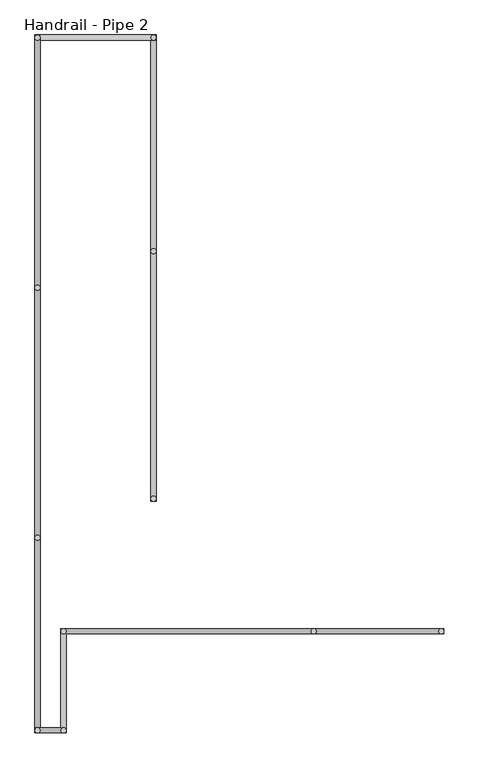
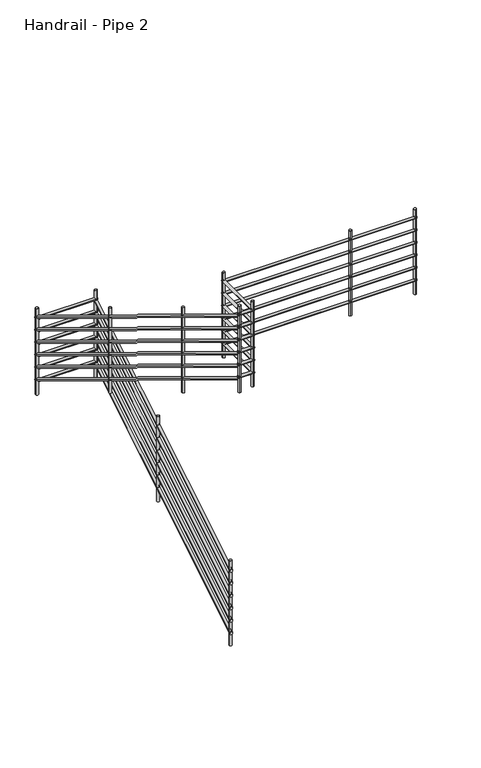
"""IFC4 building model written with IfcOpenShell, lengths in millimetres: railing geometry, Handrail - Pipe 2."""

from ifc_helpers import new_model, si_unit, point, frame, frame_2d, origin, place, context, project, spatial, circle_curve, ellipse_curve, trimmed, segment, composite_curve, outline, extrude, source, transform, mapped, element, save
from ifc_brep_helpers import plane_surface, cylinder_surface, advanced_brep


def handrail_pipe_2_8d0a3928(model_context):
    return source(origin(), model_context, "Body", "SolidModel", [
        advanced_brep(
        [(-34610.7022235, -2707.6103492, 946.6982196), (-34636.1022235, -2707.6103492, 946.6982196), (-34610.7022235, -459.7103492, 2316.8467911), (-34636.1022235, -459.7103492, 2316.8467911)],
        [
            (0, 1, ellipse_curve(frame((-34623.4022235, -2707.6103492, 946.6982196), z_axis=(0.0, -1.0, 0.0), x_axis=(0.0, 0.0, -1.0)), 14.8732089, 12.7)),
            (1, 0, ellipse_curve(frame((-34623.4022235, -2707.6103492, 946.6982196), z_axis=(0.0, -1.0, 0.0), x_axis=(0.0, 0.0, -1.0)), 14.8732089, 12.7)),
            (2, 3, ellipse_curve(frame((-34623.4022235, -459.7103492, 2316.8467911), z_axis=(0.0, 1.0, 0.0), x_axis=(0.0, 0.0, -1.0)), 14.8732089, 12.7)),
            (3, 2, ellipse_curve(frame((-34623.4022235, -459.7103492, 2316.8467911), z_axis=(0.0, 1.0, 0.0), x_axis=(0.0, 0.0, -1.0)), 14.8732089, 12.7)),
            (0, 2),
            (3, 1),
        ],
        [
            plane_surface(frame((-34623.4022235, -2707.6103492, 961.5714286), z_axis=(0.0, -1.0, 0.0), x_axis=(0.0, 0.0, 1.0))),
            plane_surface(frame((-34623.4022235, -459.7103492, 2331.72), z_axis=(0.0, 1.0, 0.0), x_axis=(0.0, 0.0, 1.0))),
            cylinder_surface(frame((-34623.4022235, -2701.0004713, 950.7270976), z_axis=(0.0, -0.8538843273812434, -0.5204628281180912), x_axis=(-1.0, 0.0, 0.0)), 12.7),
        ],
        [
            (0, [[1, 2]]),
            (1, [[3, 4]]),
            (2, [[-1, 5, -4, 6]]),
            (2, [[-2, -6, -3, -5]]),
        ],
    ),
        advanced_brep(
        [(-34610.7022235, -434.3103492, 2342.2428571), (-34610.7022235, -459.7103492, 2342.2428571), (-35176.278433, -434.3103492, 2342.2428571), (-35176.278433, -459.7103492, 2342.2428571)],
        [
            (0, 1, circle_curve(frame((-34610.7022235, -447.0103492, 2342.2428571), z_axis=(1.0, 0.0, 0.0), x_axis=(0.0, -1.0, 0.0)), 12.7)),
            (1, 0, circle_curve(frame((-34610.7022235, -447.0103492, 2342.2428571), z_axis=(1.0, 0.0, 0.0), x_axis=(0.0, -1.0, 0.0)), 12.7)),
            (2, 3, circle_curve(frame((-35176.278433, -447.0103492, 2342.2428571), z_axis=(-1.0, 0.0, 0.0), x_axis=(0.0, -1.0, 0.0)), 12.7)),
            (3, 2, circle_curve(frame((-35176.278433, -447.0103492, 2342.2428571), z_axis=(-1.0, 0.0, 0.0), x_axis=(0.0, -1.0, 0.0)), 12.7)),
            (0, 2),
            (3, 1),
        ],
        [
            plane_surface(frame((-34610.7022235, -447.0103492, 2354.9428571), z_axis=(1.0, 0.0, 0.0), x_axis=(0.0, -1.0, 0.0))),
            plane_surface(frame((-35176.278433, -447.0103492, 2354.9428571), z_axis=(-1.0, 0.0, 0.0), x_axis=(0.0, -1.0, 0.0))),
            cylinder_surface(frame((-34610.7022235, -447.0103492, 2342.2428571), z_axis=(1.0, 0.0, 0.0), x_axis=(0.0, -1.0, 0.0)), 12.7),
        ],
        [
            (0, [[1, 2]]),
            (1, [[3, 4]]),
            (2, [[-1, 5, -4, 6]]),
            (2, [[-2, -6, -3, -5]]),
        ],
    ),
        advanced_brep(
        [(-35201.678433, -434.3103492, 2347.8106006), (-35176.278433, -434.3103492, 2347.8106006), (-35201.678433, -3812.5103492, 4406.9039339), (-35176.278433, -3812.5103492, 4406.9039339)],
        [
            (0, 1, ellipse_curve(frame((-35188.978433, -434.3103492, 2347.8106006), z_axis=(0.0, 1.0, 0.0), x_axis=(0.0, 0.0, -1.0)), 14.8732089, 12.7)),
            (1, 0, ellipse_curve(frame((-35188.978433, -434.3103492, 2347.8106006), z_axis=(0.0, 1.0, 0.0), x_axis=(0.0, 0.0, -1.0)), 14.8732089, 12.7)),
            (2, 3, ellipse_curve(frame((-35188.978433, -3812.5103492, 4406.9039339), z_axis=(0.0, -1.0, 0.0), x_axis=(0.0, 0.0, -1.0)), 14.8732089, 12.7)),
            (3, 2, ellipse_curve(frame((-35188.978433, -3812.5103492, 4406.9039339), z_axis=(0.0, -1.0, 0.0), x_axis=(0.0, 0.0, -1.0)), 14.8732089, 12.7)),
            (0, 2),
            (3, 1),
        ],
        [
            plane_surface(frame((-35188.978433, -434.3103492, 2362.6838095), z_axis=(0.0, 1.0, 0.0), x_axis=(0.0, 0.0, -1.0))),
            plane_surface(frame((-35188.978433, -3812.5103492, 4421.7771429), z_axis=(0.0, -1.0, 0.0), x_axis=(0.0, 0.0, -1.0))),
            cylinder_surface(frame((-35188.978433, -440.9202271, 2351.8394786), z_axis=(0.0, 0.8538843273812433, -0.5204628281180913), x_axis=(1.0, 0.0, 0.0)), 12.7),
        ],
        [
            (0, [[1, 2]]),
            (1, [[3, 4]]),
            (2, [[-1, 5, -4, 6]]),
            (2, [[-2, -6, -3, -5]]),
        ],
    ),
        advanced_brep(
        [(-34610.7022235, -2707.6103492, 819.6982196), (-34636.1022235, -2707.6103492, 819.6982196), (-34610.7022235, -459.7103492, 2189.8467911), (-34636.1022235, -459.7103492, 2189.8467911)],
        [
            (0, 1, ellipse_curve(frame((-34623.4022235, -2707.6103492, 819.6982196), z_axis=(0.0, -1.0, 0.0), x_axis=(0.0, 0.0, -1.0)), 14.8732089, 12.7)),
            (1, 0, ellipse_curve(frame((-34623.4022235, -2707.6103492, 819.6982196), z_axis=(0.0, -1.0, 0.0), x_axis=(0.0, 0.0, -1.0)), 14.8732089, 12.7)),
            (2, 3, ellipse_curve(frame((-34623.4022235, -459.7103492, 2189.8467911), z_axis=(0.0, 1.0, 0.0), x_axis=(0.0, 0.0, -1.0)), 14.8732089, 12.7)),
            (3, 2, ellipse_curve(frame((-34623.4022235, -459.7103492, 2189.8467911), z_axis=(0.0, 1.0, 0.0), x_axis=(0.0, 0.0, -1.0)), 14.8732089, 12.7)),
            (0, 2),
            (3, 1),
        ],
        [
            plane_surface(frame((-34623.4022235, -2707.6103492, 834.5714286), z_axis=(0.0, -1.0, 0.0), x_axis=(0.0, 0.0, 1.0))),
            plane_surface(frame((-34623.4022235, -459.7103492, 2204.72), z_axis=(0.0, 1.0, 0.0), x_axis=(0.0, 0.0, 1.0))),
            cylinder_surface(frame((-34623.4022235, -2701.0004713, 823.7270976), z_axis=(0.0, -0.8538843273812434, -0.5204628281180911), x_axis=(-1.0, 0.0, 0.0)), 12.7),
        ],
        [
            (0, [[1, 2]]),
            (1, [[3, 4]]),
            (2, [[-1, 5, -4, 6]]),
            (2, [[-2, -6, -3, -5]]),
        ],
    ),
        advanced_brep(
        [(-34610.7022235, -434.3103492, 2215.2428571), (-34610.7022235, -459.7103492, 2215.2428571), (-35176.278433, -434.3103492, 2215.2428571), (-35176.278433, -459.7103492, 2215.2428571)],
        [
            (0, 1, circle_curve(frame((-34610.7022235, -447.0103492, 2215.2428571), z_axis=(1.0, 0.0, 0.0), x_axis=(0.0, -1.0, 0.0)), 12.7)),
            (1, 0, circle_curve(frame((-34610.7022235, -447.0103492, 2215.2428571), z_axis=(1.0, 0.0, 0.0), x_axis=(0.0, -1.0, 0.0)), 12.7)),
            (2, 3, circle_curve(frame((-35176.278433, -447.0103492, 2215.2428571), z_axis=(-1.0, 0.0, 0.0), x_axis=(0.0, -1.0, 0.0)), 12.7)),
            (3, 2, circle_curve(frame((-35176.278433, -447.0103492, 2215.2428571), z_axis=(-1.0, 0.0, 0.0), x_axis=(0.0, -1.0, 0.0)), 12.7)),
            (0, 2),
            (3, 1),
        ],
        [
            plane_surface(frame((-34610.7022235, -447.0103492, 2227.9428571), z_axis=(1.0, 0.0, 0.0), x_axis=(0.0, -1.0, 0.0))),
            plane_surface(frame((-35176.278433, -447.0103492, 2227.9428571), z_axis=(-1.0, 0.0, 0.0), x_axis=(0.0, -1.0, 0.0))),
            cylinder_surface(frame((-34610.7022235, -447.0103492, 2215.2428571), z_axis=(1.0, 0.0, 0.0), x_axis=(0.0, -1.0, 0.0)), 12.7),
        ],
        [
            (0, [[1, 2]]),
            (1, [[3, 4]]),
            (2, [[-1, 5, -4, 6]]),
            (2, [[-2, -6, -3, -5]]),
        ],
    ),
        advanced_brep(
        [(-35201.678433, -434.3103492, 2220.8106006), (-35176.278433, -434.3103492, 2220.8106006), (-35201.678433, -3812.5103492, 4279.9039339), (-35176.278433, -3812.5103492, 4279.9039339)],
        [
            (0, 1, ellipse_curve(frame((-35188.978433, -434.3103492, 2220.8106006), z_axis=(0.0, 1.0, 0.0), x_axis=(0.0, 0.0, -1.0)), 14.8732089, 12.7)),
            (1, 0, ellipse_curve(frame((-35188.978433, -434.3103492, 2220.8106006), z_axis=(0.0, 1.0, 0.0), x_axis=(0.0, 0.0, -1.0)), 14.8732089, 12.7)),
            (2, 3, ellipse_curve(frame((-35188.978433, -3812.5103492, 4279.9039339), z_axis=(0.0, -1.0, 0.0), x_axis=(0.0, 0.0, -1.0)), 14.8732089, 12.7)),
            (3, 2, ellipse_curve(frame((-35188.978433, -3812.5103492, 4279.9039339), z_axis=(0.0, -1.0, 0.0), x_axis=(0.0, 0.0, -1.0)), 14.8732089, 12.7)),
            (0, 2),
            (3, 1),
        ],
        [
            plane_surface(frame((-35188.978433, -434.3103492, 2235.6838095), z_axis=(0.0, 1.0, 0.0), x_axis=(0.0, 0.0, -1.0))),
            plane_surface(frame((-35188.978433, -3812.5103492, 4294.7771429), z_axis=(0.0, -1.0, 0.0), x_axis=(0.0, 0.0, -1.0))),
            cylinder_surface(frame((-35188.978433, -440.9202271, 2224.8394786), z_axis=(0.0, 0.8538843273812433, -0.5204628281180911), x_axis=(1.0, 0.0, 0.0)), 12.7),
        ],
        [
            (0, [[1, 2]]),
            (1, [[3, 4]]),
            (2, [[-1, 5, -4, 6]]),
            (2, [[-2, -6, -3, -5]]),
        ],
    ),
        advanced_brep(
        [(-34610.7022235, -2707.6103492, 692.6982196), (-34636.1022235, -2707.6103492, 692.6982196), (-34610.7022235, -459.7103492, 2062.8467911), (-34636.1022235, -459.7103492, 2062.8467911)],
        [
            (0, 1, ellipse_curve(frame((-34623.4022235, -2707.6103492, 692.6982196), z_axis=(0.0, -1.0, 0.0), x_axis=(0.0, 0.0, -1.0)), 14.8732089, 12.7)),
            (1, 0, ellipse_curve(frame((-34623.4022235, -2707.6103492, 692.6982196), z_axis=(0.0, -1.0, 0.0), x_axis=(0.0, 0.0, -1.0)), 14.8732089, 12.7)),
            (2, 3, ellipse_curve(frame((-34623.4022235, -459.7103492, 2062.8467911), z_axis=(0.0, 1.0, 0.0), x_axis=(0.0, 0.0, -1.0)), 14.8732089, 12.7)),
            (3, 2, ellipse_curve(frame((-34623.4022235, -459.7103492, 2062.8467911), z_axis=(0.0, 1.0, 0.0), x_axis=(0.0, 0.0, -1.0)), 14.8732089, 12.7)),
            (0, 2),
            (3, 1),
        ],
        [
            plane_surface(frame((-34623.4022235, -2707.6103492, 707.5714286), z_axis=(0.0, -1.0, 0.0), x_axis=(0.0, 0.0, 1.0))),
            plane_surface(frame((-34623.4022235, -459.7103492, 2077.72), z_axis=(0.0, 1.0, 0.0), x_axis=(0.0, 0.0, 1.0))),
            cylinder_surface(frame((-34623.4022235, -2701.0004713, 696.7270976), z_axis=(0.0, -0.8538843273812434, -0.5204628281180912), x_axis=(-1.0, 0.0, 0.0)), 12.7),
        ],
        [
            (0, [[1, 2]]),
            (1, [[3, 4]]),
            (2, [[-1, 5, -4, 6]]),
            (2, [[-2, -6, -3, -5]]),
        ],
    ),
        advanced_brep(
        [(-34610.7022235, -434.3103492, 2088.2428571), (-34610.7022235, -459.7103492, 2088.2428571), (-35176.278433, -434.3103492, 2088.2428571), (-35176.278433, -459.7103492, 2088.2428571)],
        [
            (0, 1, circle_curve(frame((-34610.7022235, -447.0103492, 2088.2428571), z_axis=(1.0, 0.0, 0.0), x_axis=(0.0, -1.0, 0.0)), 12.7)),
            (1, 0, circle_curve(frame((-34610.7022235, -447.0103492, 2088.2428571), z_axis=(1.0, 0.0, 0.0), x_axis=(0.0, -1.0, 0.0)), 12.7)),
            (2, 3, circle_curve(frame((-35176.278433, -447.0103492, 2088.2428571), z_axis=(-1.0, 0.0, 0.0), x_axis=(0.0, -1.0, 0.0)), 12.7)),
            (3, 2, circle_curve(frame((-35176.278433, -447.0103492, 2088.2428571), z_axis=(-1.0, 0.0, 0.0), x_axis=(0.0, -1.0, 0.0)), 12.7)),
            (0, 2),
            (3, 1),
        ],
        [
            plane_surface(frame((-34610.7022235, -447.0103492, 2100.9428571), z_axis=(1.0, 0.0, 0.0), x_axis=(0.0, -1.0, 0.0))),
            plane_surface(frame((-35176.278433, -447.0103492, 2100.9428571), z_axis=(-1.0, 0.0, 0.0), x_axis=(0.0, -1.0, 0.0))),
            cylinder_surface(frame((-34610.7022235, -447.0103492, 2088.2428571), z_axis=(1.0, 0.0, 0.0), x_axis=(0.0, -1.0, 0.0)), 12.7),
        ],
        [
            (0, [[1, 2]]),
            (1, [[3, 4]]),
            (2, [[-1, 5, -4, 6]]),
            (2, [[-2, -6, -3, -5]]),
        ],
    ),
        advanced_brep(
        [(-35201.678433, -434.3103492, 2093.8106006), (-35176.278433, -434.3103492, 2093.8106006), (-35201.678433, -3812.5103492, 4152.9039339), (-35176.278433, -3812.5103492, 4152.9039339)],
        [
            (0, 1, ellipse_curve(frame((-35188.978433, -434.3103492, 2093.8106006), z_axis=(0.0, 1.0, 0.0), x_axis=(0.0, 0.0, -1.0)), 14.8732089, 12.7)),
            (1, 0, ellipse_curve(frame((-35188.978433, -434.3103492, 2093.8106006), z_axis=(0.0, 1.0, 0.0), x_axis=(0.0, 0.0, -1.0)), 14.8732089, 12.7)),
            (2, 3, ellipse_curve(frame((-35188.978433, -3812.5103492, 4152.9039339), z_axis=(0.0, -1.0, 0.0), x_axis=(0.0, 0.0, -1.0)), 14.8732089, 12.7)),
            (3, 2, ellipse_curve(frame((-35188.978433, -3812.5103492, 4152.9039339), z_axis=(0.0, -1.0, 0.0), x_axis=(0.0, 0.0, -1.0)), 14.8732089, 12.7)),
            (0, 2),
            (3, 1),
        ],
        [
            plane_surface(frame((-35188.978433, -434.3103492, 2108.6838095), z_axis=(0.0, 1.0, 0.0), x_axis=(0.0, 0.0, -1.0))),
            plane_surface(frame((-35188.978433, -3812.5103492, 4167.7771429), z_axis=(0.0, -1.0, 0.0), x_axis=(0.0, 0.0, -1.0))),
            cylinder_surface(frame((-35188.978433, -440.9202271, 2097.8394786), z_axis=(0.0, 0.8538843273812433, -0.5204628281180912), x_axis=(1.0, 0.0, 0.0)), 12.7),
        ],
        [
            (0, [[1, 2]]),
            (1, [[3, 4]]),
            (2, [[-1, 5, -4, 6]]),
            (2, [[-2, -6, -3, -5]]),
        ],
    ),
        advanced_brep(
        [(-34610.7022235, -2707.6103492, 565.6982196), (-34636.1022235, -2707.6103492, 565.6982196), (-34610.7022235, -459.7103492, 1935.8467911), (-34636.1022235, -459.7103492, 1935.8467911)],
        [
            (0, 1, ellipse_curve(frame((-34623.4022235, -2707.6103492, 565.6982196), z_axis=(0.0, -1.0, 0.0), x_axis=(0.0, 0.0, -1.0)), 14.8732089, 12.7)),
            (1, 0, ellipse_curve(frame((-34623.4022235, -2707.6103492, 565.6982196), z_axis=(0.0, -1.0, 0.0), x_axis=(0.0, 0.0, -1.0)), 14.8732089, 12.7)),
            (2, 3, ellipse_curve(frame((-34623.4022235, -459.7103492, 1935.8467911), z_axis=(0.0, 1.0, 0.0), x_axis=(0.0, 0.0, -1.0)), 14.8732089, 12.7)),
            (3, 2, ellipse_curve(frame((-34623.4022235, -459.7103492, 1935.8467911), z_axis=(0.0, 1.0, 0.0), x_axis=(0.0, 0.0, -1.0)), 14.8732089, 12.7)),
            (0, 2),
            (3, 1),
        ],
        [
            plane_surface(frame((-34623.4022235, -2707.6103492, 580.5714286), z_axis=(0.0, -1.0, 0.0), x_axis=(0.0, 0.0, 1.0))),
            plane_surface(frame((-34623.4022235, -459.7103492, 1950.72), z_axis=(0.0, 1.0, 0.0), x_axis=(0.0, 0.0, 1.0))),
            cylinder_surface(frame((-34623.4022235, -2701.0004713, 569.7270976), z_axis=(0.0, -0.8538843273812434, -0.5204628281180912), x_axis=(-1.0, 0.0, 0.0)), 12.7),
        ],
        [
            (0, [[1, 2]]),
            (1, [[3, 4]]),
            (2, [[-1, 5, -4, 6]]),
            (2, [[-2, -6, -3, -5]]),
        ],
    ),
        advanced_brep(
        [(-34610.7022235, -434.3103492, 1961.2428571), (-34610.7022235, -459.7103492, 1961.2428571), (-35176.278433, -434.3103492, 1961.2428571), (-35176.278433, -459.7103492, 1961.2428571)],
        [
            (0, 1, circle_curve(frame((-34610.7022235, -447.0103492, 1961.2428571), z_axis=(1.0, 0.0, 0.0), x_axis=(0.0, -1.0, 0.0)), 12.7)),
            (1, 0, circle_curve(frame((-34610.7022235, -447.0103492, 1961.2428571), z_axis=(1.0, 0.0, 0.0), x_axis=(0.0, -1.0, 0.0)), 12.7)),
            (2, 3, circle_curve(frame((-35176.278433, -447.0103492, 1961.2428571), z_axis=(-1.0, 0.0, 0.0), x_axis=(0.0, -1.0, 0.0)), 12.7)),
            (3, 2, circle_curve(frame((-35176.278433, -447.0103492, 1961.2428571), z_axis=(-1.0, 0.0, 0.0), x_axis=(0.0, -1.0, 0.0)), 12.7)),
            (0, 2),
            (3, 1),
        ],
        [
            plane_surface(frame((-34610.7022235, -447.0103492, 1973.9428571), z_axis=(1.0, 0.0, 0.0), x_axis=(0.0, -1.0, 0.0))),
            plane_surface(frame((-35176.278433, -447.0103492, 1973.9428571), z_axis=(-1.0, 0.0, 0.0), x_axis=(0.0, -1.0, 0.0))),
            cylinder_surface(frame((-34610.7022235, -447.0103492, 1961.2428571), z_axis=(1.0, 0.0, 0.0), x_axis=(0.0, -1.0, 0.0)), 12.7),
        ],
        [
            (0, [[1, 2]]),
            (1, [[3, 4]]),
            (2, [[-1, 5, -4, 6]]),
            (2, [[-2, -6, -3, -5]]),
        ],
    ),
        advanced_brep(
        [(-35201.678433, -434.3103492, 1966.8106006), (-35176.278433, -434.3103492, 1966.8106006), (-35201.678433, -3812.5103492, 4025.9039339), (-35176.278433, -3812.5103492, 4025.9039339)],
        [
            (0, 1, ellipse_curve(frame((-35188.978433, -434.3103492, 1966.8106006), z_axis=(0.0, 1.0, 0.0), x_axis=(0.0, 0.0, -1.0)), 14.8732089, 12.7)),
            (1, 0, ellipse_curve(frame((-35188.978433, -434.3103492, 1966.8106006), z_axis=(0.0, 1.0, 0.0), x_axis=(0.0, 0.0, -1.0)), 14.8732089, 12.7)),
            (2, 3, ellipse_curve(frame((-35188.978433, -3812.5103492, 4025.9039339), z_axis=(0.0, -1.0, 0.0), x_axis=(0.0, 0.0, -1.0)), 14.8732089, 12.7)),
            (3, 2, ellipse_curve(frame((-35188.978433, -3812.5103492, 4025.9039339), z_axis=(0.0, -1.0, 0.0), x_axis=(0.0, 0.0, -1.0)), 14.8732089, 12.7)),
            (0, 2),
            (3, 1),
        ],
        [
            plane_surface(frame((-35188.978433, -434.3103492, 1981.6838095), z_axis=(0.0, 1.0, 0.0), x_axis=(0.0, 0.0, -1.0))),
            plane_surface(frame((-35188.978433, -3812.5103492, 4040.7771429), z_axis=(0.0, -1.0, 0.0), x_axis=(0.0, 0.0, -1.0))),
            cylinder_surface(frame((-35188.978433, -440.9202271, 1970.8394786), z_axis=(0.0, 0.8538843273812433, -0.5204628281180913), x_axis=(1.0, 0.0, 0.0)), 12.7),
        ],
        [
            (0, [[1, 2]]),
            (1, [[3, 4]]),
            (2, [[-1, 5, -4, 6]]),
            (2, [[-2, -6, -3, -5]]),
        ],
    ),
        advanced_brep(
        [(-34610.7022235, -2707.6103492, 438.6982196), (-34636.1022235, -2707.6103492, 438.6982196), (-34610.7022235, -459.7103492, 1808.8467911), (-34636.1022235, -459.7103492, 1808.8467911)],
        [
            (0, 1, ellipse_curve(frame((-34623.4022235, -2707.6103492, 438.6982196), z_axis=(0.0, -1.0, 0.0), x_axis=(0.0, 0.0, -1.0)), 14.8732089, 12.7)),
            (1, 0, ellipse_curve(frame((-34623.4022235, -2707.6103492, 438.6982196), z_axis=(0.0, -1.0, 0.0), x_axis=(0.0, 0.0, -1.0)), 14.8732089, 12.7)),
            (2, 3, ellipse_curve(frame((-34623.4022235, -459.7103492, 1808.8467911), z_axis=(0.0, 1.0, 0.0), x_axis=(0.0, 0.0, -1.0)), 14.8732089, 12.7)),
            (3, 2, ellipse_curve(frame((-34623.4022235, -459.7103492, 1808.8467911), z_axis=(0.0, 1.0, 0.0), x_axis=(0.0, 0.0, -1.0)), 14.8732089, 12.7)),
            (0, 2),
            (3, 1),
        ],
        [
            plane_surface(frame((-34623.4022235, -2707.6103492, 453.5714286), z_axis=(0.0, -1.0, 0.0), x_axis=(0.0, 0.0, 1.0))),
            plane_surface(frame((-34623.4022235, -459.7103492, 1823.72), z_axis=(0.0, 1.0, 0.0), x_axis=(0.0, 0.0, 1.0))),
            cylinder_surface(frame((-34623.4022235, -2701.0004713, 442.7270976), z_axis=(0.0, -0.8538843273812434, -0.5204628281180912), x_axis=(-1.0, 0.0, 0.0)), 12.7),
        ],
        [
            (0, [[1, 2]]),
            (1, [[3, 4]]),
            (2, [[-1, 5, -4, 6]]),
            (2, [[-2, -6, -3, -5]]),
        ],
    ),
        advanced_brep(
        [(-34610.7022235, -434.3103492, 1834.2428571), (-34610.7022235, -459.7103492, 1834.2428571), (-35176.278433, -434.3103492, 1834.2428571), (-35176.278433, -459.7103492, 1834.2428571)],
        [
            (0, 1, circle_curve(frame((-34610.7022235, -447.0103492, 1834.2428571), z_axis=(1.0, 0.0, 0.0), x_axis=(0.0, -1.0, 0.0)), 12.7)),
            (1, 0, circle_curve(frame((-34610.7022235, -447.0103492, 1834.2428571), z_axis=(1.0, 0.0, 0.0), x_axis=(0.0, -1.0, 0.0)), 12.7)),
            (2, 3, circle_curve(frame((-35176.278433, -447.0103492, 1834.2428571), z_axis=(-1.0, 0.0, 0.0), x_axis=(0.0, -1.0, 0.0)), 12.7)),
            (3, 2, circle_curve(frame((-35176.278433, -447.0103492, 1834.2428571), z_axis=(-1.0, 0.0, 0.0), x_axis=(0.0, -1.0, 0.0)), 12.7)),
            (0, 2),
            (3, 1),
        ],
        [
            plane_surface(frame((-34610.7022235, -447.0103492, 1846.9428571), z_axis=(1.0, 0.0, 0.0), x_axis=(0.0, -1.0, 0.0))),
            plane_surface(frame((-35176.278433, -447.0103492, 1846.9428571), z_axis=(-1.0, 0.0, 0.0), x_axis=(0.0, -1.0, 0.0))),
            cylinder_surface(frame((-34610.7022235, -447.0103492, 1834.2428571), z_axis=(1.0, 0.0, 0.0), x_axis=(0.0, -1.0, 0.0)), 12.7),
        ],
        [
            (0, [[1, 2]]),
            (1, [[3, 4]]),
            (2, [[-1, 5, -4, 6]]),
            (2, [[-2, -6, -3, -5]]),
        ],
    ),
        advanced_brep(
        [(-35201.678433, -434.3103492, 1839.8106006), (-35176.278433, -434.3103492, 1839.8106006), (-35201.678433, -3812.5103492, 3898.9039339), (-35176.278433, -3812.5103492, 3898.9039339)],
        [
            (0, 1, ellipse_curve(frame((-35188.978433, -434.3103492, 1839.8106006), z_axis=(0.0, 1.0, 0.0), x_axis=(0.0, 0.0, -1.0)), 14.8732089, 12.7)),
            (1, 0, ellipse_curve(frame((-35188.978433, -434.3103492, 1839.8106006), z_axis=(0.0, 1.0, 0.0), x_axis=(0.0, 0.0, -1.0)), 14.8732089, 12.7)),
            (2, 3, ellipse_curve(frame((-35188.978433, -3812.5103492, 3898.9039339), z_axis=(0.0, -1.0, 0.0), x_axis=(0.0, 0.0, -1.0)), 14.8732089, 12.7)),
            (3, 2, ellipse_curve(frame((-35188.978433, -3812.5103492, 3898.9039339), z_axis=(0.0, -1.0, 0.0), x_axis=(0.0, 0.0, -1.0)), 14.8732089, 12.7)),
            (0, 2),
            (3, 1),
        ],
        [
            plane_surface(frame((-35188.978433, -434.3103492, 1854.6838095), z_axis=(0.0, 1.0, 0.0), x_axis=(0.0, 0.0, -1.0))),
            plane_surface(frame((-35188.978433, -3812.5103492, 3913.7771429), z_axis=(0.0, -1.0, 0.0), x_axis=(0.0, 0.0, -1.0))),
            cylinder_surface(frame((-35188.978433, -440.9202271, 1843.8394786), z_axis=(0.0, 0.8538843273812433, -0.5204628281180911), x_axis=(1.0, 0.0, 0.0)), 12.7),
        ],
        [
            (0, [[1, 2]]),
            (1, [[3, 4]]),
            (2, [[-1, 5, -4, 6]]),
            (2, [[-2, -6, -3, -5]]),
        ],
    ),
        advanced_brep(
        [(-34610.7022235, -2707.6103492, 311.6982196), (-34636.1022235, -2707.6103492, 311.6982196), (-34610.7022235, -459.7103492, 1681.8467911), (-34636.1022235, -459.7103492, 1681.8467911)],
        [
            (0, 1, ellipse_curve(frame((-34623.4022235, -2707.6103492, 311.6982196), z_axis=(0.0, -1.0, 0.0), x_axis=(0.0, 0.0, -1.0)), 14.8732089, 12.7)),
            (1, 0, ellipse_curve(frame((-34623.4022235, -2707.6103492, 311.6982196), z_axis=(0.0, -1.0, 0.0), x_axis=(0.0, 0.0, -1.0)), 14.8732089, 12.7)),
            (2, 3, ellipse_curve(frame((-34623.4022235, -459.7103492, 1681.8467911), z_axis=(0.0, 1.0, 0.0), x_axis=(0.0, 0.0, -1.0)), 14.8732089, 12.7)),
            (3, 2, ellipse_curve(frame((-34623.4022235, -459.7103492, 1681.8467911), z_axis=(0.0, 1.0, 0.0), x_axis=(0.0, 0.0, -1.0)), 14.8732089, 12.7)),
            (0, 2),
            (3, 1),
        ],
        [
            plane_surface(frame((-34623.4022235, -2707.6103492, 326.5714286), z_axis=(0.0, -1.0, 0.0), x_axis=(0.0, 0.0, 1.0))),
            plane_surface(frame((-34623.4022235, -459.7103492, 1696.72), z_axis=(0.0, 1.0, 0.0), x_axis=(0.0, 0.0, 1.0))),
            cylinder_surface(frame((-34623.4022235, -2701.0004713, 315.7270976), z_axis=(0.0, -0.8538843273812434, -0.5204628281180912), x_axis=(-1.0, 0.0, 0.0)), 12.7),
        ],
        [
            (0, [[1, 2]]),
            (1, [[3, 4]]),
            (2, [[-1, 5, -4, 6]]),
            (2, [[-2, -6, -3, -5]]),
        ],
    ),
        advanced_brep(
        [(-34610.7022235, -434.3103492, 1707.2428571), (-34610.7022235, -459.7103492, 1707.2428571), (-35176.278433, -434.3103492, 1707.2428571), (-35176.278433, -459.7103492, 1707.2428571)],
        [
            (0, 1, circle_curve(frame((-34610.7022235, -447.0103492, 1707.2428571), z_axis=(1.0, 0.0, 0.0), x_axis=(0.0, -1.0, 0.0)), 12.7)),
            (1, 0, circle_curve(frame((-34610.7022235, -447.0103492, 1707.2428571), z_axis=(1.0, 0.0, 0.0), x_axis=(0.0, -1.0, 0.0)), 12.7)),
            (2, 3, circle_curve(frame((-35176.278433, -447.0103492, 1707.2428571), z_axis=(-1.0, 0.0, 0.0), x_axis=(0.0, -1.0, 0.0)), 12.7)),
            (3, 2, circle_curve(frame((-35176.278433, -447.0103492, 1707.2428571), z_axis=(-1.0, 0.0, 0.0), x_axis=(0.0, -1.0, 0.0)), 12.7)),
            (0, 2),
            (3, 1),
        ],
        [
            plane_surface(frame((-34610.7022235, -447.0103492, 1719.9428571), z_axis=(1.0, 0.0, 0.0), x_axis=(0.0, -1.0, 0.0))),
            plane_surface(frame((-35176.278433, -447.0103492, 1719.9428571), z_axis=(-1.0, 0.0, 0.0), x_axis=(0.0, -1.0, 0.0))),
            cylinder_surface(frame((-34610.7022235, -447.0103492, 1707.2428571), z_axis=(1.0, 0.0, 0.0), x_axis=(0.0, -1.0, 0.0)), 12.7),
        ],
        [
            (0, [[1, 2]]),
            (1, [[3, 4]]),
            (2, [[-1, 5, -4, 6]]),
            (2, [[-2, -6, -3, -5]]),
        ],
    ),
        advanced_brep(
        [(-35201.678433, -434.3103492, 1712.8106006), (-35176.278433, -434.3103492, 1712.8106006), (-35201.678433, -3812.5103492, 3771.9039339), (-35176.278433, -3812.5103492, 3771.9039339)],
        [
            (0, 1, ellipse_curve(frame((-35188.978433, -434.3103492, 1712.8106006), z_axis=(0.0, 1.0, 0.0), x_axis=(0.0, 0.0, -1.0)), 14.8732089, 12.7)),
            (1, 0, ellipse_curve(frame((-35188.978433, -434.3103492, 1712.8106006), z_axis=(0.0, 1.0, 0.0), x_axis=(0.0, 0.0, -1.0)), 14.8732089, 12.7)),
            (2, 3, ellipse_curve(frame((-35188.978433, -3812.5103492, 3771.9039339), z_axis=(0.0, -1.0, 0.0), x_axis=(0.0, 0.0, -1.0)), 14.8732089, 12.7)),
            (3, 2, ellipse_curve(frame((-35188.978433, -3812.5103492, 3771.9039339), z_axis=(0.0, -1.0, 0.0), x_axis=(0.0, 0.0, -1.0)), 14.8732089, 12.7)),
            (0, 2),
            (3, 1),
        ],
        [
            plane_surface(frame((-35188.978433, -434.3103492, 1727.6838095), z_axis=(0.0, 1.0, 0.0), x_axis=(0.0, 0.0, -1.0))),
            plane_surface(frame((-35188.978433, -3812.5103492, 3786.7771429), z_axis=(0.0, -1.0, 0.0), x_axis=(0.0, 0.0, -1.0))),
            cylinder_surface(frame((-35188.978433, -440.9202271, 1716.8394786), z_axis=(0.0, 0.8538843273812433, -0.5204628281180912), x_axis=(1.0, 0.0, 0.0)), 12.7),
        ],
        [
            (0, [[1, 2]]),
            (1, [[3, 4]]),
            (2, [[-1, 5, -4, 6]]),
            (2, [[-2, -6, -3, -5]]),
        ],
    ),
        advanced_brep(
        [(-35201.678433, -3837.9103492, 4432.3), (-35201.678433, -3812.5103492, 4432.3), (-35049.278433, -3837.9103492, 4432.3), (-35074.678433, -3812.5103492, 4432.3), (-35049.278433, -3355.3103492, 4432.3), (-35074.678433, -3329.9103492, 4432.3), (-33207.4142212, -3355.3103492, 4432.3), (-33207.4142212, -3329.9103492, 4432.3)],
        [
            (0, 1, circle_curve(frame((-35201.678433, -3825.2103492, 4432.3), z_axis=(-1.0, 0.0, 0.0), x_axis=(0.0, 1.0, 0.0)), 12.7)),
            (1, 0, circle_curve(frame((-35201.678433, -3825.2103492, 4432.3), z_axis=(-1.0, 0.0, 0.0), x_axis=(0.0, 1.0, 0.0)), 12.7)),
            (0, 2),
            (2, 3, ellipse_curve(frame((-35061.978433, -3825.2103492, 4432.3), z_axis=(-0.7071067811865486, -0.7071067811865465, 0.0), x_axis=(-0.7071067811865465, 0.7071067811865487, 0.0)), 17.9605122, 12.7)),
            (3, 1),
            (3, 2, ellipse_curve(frame((-35061.978433, -3825.2103492, 4432.3), z_axis=(-0.7071067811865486, -0.7071067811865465, 0.0), x_axis=(-0.7071067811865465, 0.7071067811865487, 0.0)), 17.9605122, 12.7)),
            (2, 4),
            (4, 5, ellipse_curve(frame((-35061.978433, -3342.6103492, 4432.3), z_axis=(-0.7071067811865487, -0.7071067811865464, 0.0), x_axis=(0.7071067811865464, -0.7071067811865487, 0.0)), 17.9605122, 12.7)),
            (5, 3),
            (5, 4, ellipse_curve(frame((-35061.978433, -3342.6103492, 4432.3), z_axis=(-0.7071067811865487, -0.7071067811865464, 0.0), x_axis=(0.7071067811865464, -0.7071067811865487, 0.0)), 17.9605122, 12.7)),
            (6, 7, circle_curve(frame((-33207.4142212, -3342.6103492, 4432.3), z_axis=(1.0, 0.0, 0.0), x_axis=(0.0, 1.0, 0.0)), 12.7)),
            (7, 6, circle_curve(frame((-33207.4142212, -3342.6103492, 4432.3), z_axis=(1.0, 0.0, 0.0), x_axis=(0.0, 1.0, 0.0)), 12.7)),
            (4, 6),
            (7, 5),
        ],
        [
            plane_surface(frame((-35201.678433, -3825.2103492, 4445.0), z_axis=(-1.0, 0.0, 0.0), x_axis=(0.0, 1.0, 0.0))),
            cylinder_surface(frame((-35201.678433, -3825.2103492, 4432.3), z_axis=(-1.0, 0.0, 0.0), x_axis=(0.0, 1.0, 0.0)), 12.7),
            cylinder_surface(frame((-35061.978433, -3825.2103492, 4432.3), z_axis=(0.0, -1.0, 0.0), x_axis=(-1.0, 0.0, 0.0)), 12.7),
            plane_surface(frame((-33207.4142212, -3342.6103492, 4445.0), z_axis=(1.0, 0.0, 0.0), x_axis=(0.0, 1.0, 0.0))),
            cylinder_surface(frame((-35061.978433, -3342.6103492, 4432.3), z_axis=(-1.0, 0.0, 0.0), x_axis=(0.0, 1.0, 0.0)), 12.7),
        ],
        [
            (0, [[1, 2]]),
            (1, [[-1, 3, 4, 5]]),
            (1, [[-2, -5, 6, -3]]),
            (2, [[-4, 7, 8, 9]]),
            (2, [[-6, -9, 10, -7]]),
            (3, [[11, 12]]),
            (4, [[-8, 13, -12, 14]]),
            (4, [[-10, -14, -11, -13]]),
        ],
    ),
        advanced_brep(
        [(-35201.678433, -3837.9103492, 4305.3), (-35201.678433, -3812.5103492, 4305.3), (-35049.278433, -3837.9103492, 4305.3), (-35074.678433, -3812.5103492, 4305.3), (-35049.278433, -3355.3103492, 4305.3), (-35074.678433, -3329.9103492, 4305.3), (-33207.4142212, -3355.3103492, 4305.3), (-33207.4142212, -3329.9103492, 4305.3)],
        [
            (0, 1, circle_curve(frame((-35201.678433, -3825.2103492, 4305.3), z_axis=(-1.0, 0.0, 0.0), x_axis=(0.0, 1.0, 0.0)), 12.7)),
            (1, 0, circle_curve(frame((-35201.678433, -3825.2103492, 4305.3), z_axis=(-1.0, 0.0, 0.0), x_axis=(0.0, 1.0, 0.0)), 12.7)),
            (0, 2),
            (2, 3, ellipse_curve(frame((-35061.978433, -3825.2103492, 4305.3), z_axis=(-0.7071067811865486, -0.7071067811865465, 0.0), x_axis=(-0.7071067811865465, 0.7071067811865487, 0.0)), 17.9605122, 12.7)),
            (3, 1),
            (3, 2, ellipse_curve(frame((-35061.978433, -3825.2103492, 4305.3), z_axis=(-0.7071067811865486, -0.7071067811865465, 0.0), x_axis=(-0.7071067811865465, 0.7071067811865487, 0.0)), 17.9605122, 12.7)),
            (2, 4),
            (4, 5, ellipse_curve(frame((-35061.978433, -3342.6103492, 4305.3), z_axis=(-0.7071067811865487, -0.7071067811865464, 0.0), x_axis=(0.7071067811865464, -0.7071067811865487, 0.0)), 17.9605122, 12.7)),
            (5, 3),
            (5, 4, ellipse_curve(frame((-35061.978433, -3342.6103492, 4305.3), z_axis=(-0.7071067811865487, -0.7071067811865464, 0.0), x_axis=(0.7071067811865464, -0.7071067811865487, 0.0)), 17.9605122, 12.7)),
            (6, 7, circle_curve(frame((-33207.4142212, -3342.6103492, 4305.3), z_axis=(1.0, 0.0, 0.0), x_axis=(0.0, 1.0, 0.0)), 12.7)),
            (7, 6, circle_curve(frame((-33207.4142212, -3342.6103492, 4305.3), z_axis=(1.0, 0.0, 0.0), x_axis=(0.0, 1.0, 0.0)), 12.7)),
            (4, 6),
            (7, 5),
        ],
        [
            plane_surface(frame((-35201.678433, -3825.2103492, 4318.0), z_axis=(-1.0, 0.0, 0.0), x_axis=(0.0, 1.0, 0.0))),
            cylinder_surface(frame((-35201.678433, -3825.2103492, 4305.3), z_axis=(-1.0, 0.0, 0.0), x_axis=(0.0, 1.0, 0.0)), 12.7),
            cylinder_surface(frame((-35061.978433, -3825.2103492, 4305.3), z_axis=(0.0, -1.0, 0.0), x_axis=(-1.0, 0.0, 0.0)), 12.7),
            plane_surface(frame((-33207.4142212, -3342.6103492, 4318.0), z_axis=(1.0, 0.0, 0.0), x_axis=(0.0, 1.0, 0.0))),
            cylinder_surface(frame((-35061.978433, -3342.6103492, 4305.3), z_axis=(-1.0, 0.0, 0.0), x_axis=(0.0, 1.0, 0.0)), 12.7),
        ],
        [
            (0, [[1, 2]]),
            (1, [[-1, 3, 4, 5]]),
            (1, [[-2, -5, 6, -3]]),
            (2, [[-4, 7, 8, 9]]),
            (2, [[-6, -9, 10, -7]]),
            (3, [[11, 12]]),
            (4, [[-8, 13, -12, 14]]),
            (4, [[-10, -14, -11, -13]]),
        ],
    ),
        advanced_brep(
        [(-35201.678433, -3837.9103492, 4178.3), (-35201.678433, -3812.5103492, 4178.3), (-35049.278433, -3837.9103492, 4178.3), (-35074.678433, -3812.5103492, 4178.3), (-35049.278433, -3355.3103492, 4178.3), (-35074.678433, -3329.9103492, 4178.3), (-33207.4142212, -3355.3103492, 4178.3), (-33207.4142212, -3329.9103492, 4178.3)],
        [
            (0, 1, circle_curve(frame((-35201.678433, -3825.2103492, 4178.3), z_axis=(-1.0, 0.0, 0.0), x_axis=(0.0, 1.0, 0.0)), 12.7)),
            (1, 0, circle_curve(frame((-35201.678433, -3825.2103492, 4178.3), z_axis=(-1.0, 0.0, 0.0), x_axis=(0.0, 1.0, 0.0)), 12.7)),
            (0, 2),
            (2, 3, ellipse_curve(frame((-35061.978433, -3825.2103492, 4178.3), z_axis=(-0.7071067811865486, -0.7071067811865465, 0.0), x_axis=(-0.7071067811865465, 0.7071067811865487, 0.0)), 17.9605122, 12.7)),
            (3, 1),
            (3, 2, ellipse_curve(frame((-35061.978433, -3825.2103492, 4178.3), z_axis=(-0.7071067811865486, -0.7071067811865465, 0.0), x_axis=(-0.7071067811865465, 0.7071067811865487, 0.0)), 17.9605122, 12.7)),
            (2, 4),
            (4, 5, ellipse_curve(frame((-35061.978433, -3342.6103492, 4178.3), z_axis=(-0.7071067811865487, -0.7071067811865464, 0.0), x_axis=(0.7071067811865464, -0.7071067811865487, 0.0)), 17.9605122, 12.7)),
            (5, 3),
            (5, 4, ellipse_curve(frame((-35061.978433, -3342.6103492, 4178.3), z_axis=(-0.7071067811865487, -0.7071067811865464, 0.0), x_axis=(0.7071067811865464, -0.7071067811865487, 0.0)), 17.9605122, 12.7)),
            (6, 7, circle_curve(frame((-33207.4142212, -3342.6103492, 4178.3), z_axis=(1.0, 0.0, 0.0), x_axis=(0.0, 1.0, 0.0)), 12.7)),
            (7, 6, circle_curve(frame((-33207.4142212, -3342.6103492, 4178.3), z_axis=(1.0, 0.0, 0.0), x_axis=(0.0, 1.0, 0.0)), 12.7)),
            (4, 6),
            (7, 5),
        ],
        [
            plane_surface(frame((-35201.678433, -3825.2103492, 4191.0), z_axis=(-1.0, 0.0, 0.0), x_axis=(0.0, 1.0, 0.0))),
            cylinder_surface(frame((-35201.678433, -3825.2103492, 4178.3), z_axis=(-1.0, 0.0, 0.0), x_axis=(0.0, 1.0, 0.0)), 12.7),
            cylinder_surface(frame((-35061.978433, -3825.2103492, 4178.3), z_axis=(0.0, -1.0, 0.0), x_axis=(-1.0, 0.0, 0.0)), 12.7),
            plane_surface(frame((-33207.4142212, -3342.6103492, 4191.0), z_axis=(1.0, 0.0, 0.0), x_axis=(0.0, 1.0, 0.0))),
            cylinder_surface(frame((-35061.978433, -3342.6103492, 4178.3), z_axis=(-1.0, 0.0, 0.0), x_axis=(0.0, 1.0, 0.0)), 12.7),
        ],
        [
            (0, [[1, 2]]),
            (1, [[-1, 3, 4, 5]]),
            (1, [[-2, -5, 6, -3]]),
            (2, [[-4, 7, 8, 9]]),
            (2, [[-6, -9, 10, -7]]),
            (3, [[11, 12]]),
            (4, [[-8, 13, -12, 14]]),
            (4, [[-10, -14, -11, -13]]),
        ],
    ),
        advanced_brep(
        [(-35201.678433, -3837.9103492, 4051.3), (-35201.678433, -3812.5103492, 4051.3), (-35049.278433, -3837.9103492, 4051.3), (-35074.678433, -3812.5103492, 4051.3), (-35049.278433, -3355.3103492, 4051.3), (-35074.678433, -3329.9103492, 4051.3), (-33207.4142212, -3355.3103492, 4051.3), (-33207.4142212, -3329.9103492, 4051.3)],
        [
            (0, 1, circle_curve(frame((-35201.678433, -3825.2103492, 4051.3), z_axis=(-1.0, 0.0, 0.0), x_axis=(0.0, 1.0, 0.0)), 12.7)),
            (1, 0, circle_curve(frame((-35201.678433, -3825.2103492, 4051.3), z_axis=(-1.0, 0.0, 0.0), x_axis=(0.0, 1.0, 0.0)), 12.7)),
            (0, 2),
            (2, 3, ellipse_curve(frame((-35061.978433, -3825.2103492, 4051.3), z_axis=(-0.7071067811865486, -0.7071067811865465, 0.0), x_axis=(-0.7071067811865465, 0.7071067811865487, 0.0)), 17.9605122, 12.7)),
            (3, 1),
            (3, 2, ellipse_curve(frame((-35061.978433, -3825.2103492, 4051.3), z_axis=(-0.7071067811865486, -0.7071067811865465, 0.0), x_axis=(-0.7071067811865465, 0.7071067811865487, 0.0)), 17.9605122, 12.7)),
            (2, 4),
            (4, 5, ellipse_curve(frame((-35061.978433, -3342.6103492, 4051.3), z_axis=(-0.7071067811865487, -0.7071067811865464, 0.0), x_axis=(0.7071067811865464, -0.7071067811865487, 0.0)), 17.9605122, 12.7)),
            (5, 3),
            (5, 4, ellipse_curve(frame((-35061.978433, -3342.6103492, 4051.3), z_axis=(-0.7071067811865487, -0.7071067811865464, 0.0), x_axis=(0.7071067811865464, -0.7071067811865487, 0.0)), 17.9605122, 12.7)),
            (6, 7, circle_curve(frame((-33207.4142212, -3342.6103492, 4051.3), z_axis=(1.0, 0.0, 0.0), x_axis=(0.0, 1.0, 0.0)), 12.7)),
            (7, 6, circle_curve(frame((-33207.4142212, -3342.6103492, 4051.3), z_axis=(1.0, 0.0, 0.0), x_axis=(0.0, 1.0, 0.0)), 12.7)),
            (4, 6),
            (7, 5),
        ],
        [
            plane_surface(frame((-35201.678433, -3825.2103492, 4064.0), z_axis=(-1.0, 0.0, 0.0), x_axis=(0.0, 1.0, 0.0))),
            cylinder_surface(frame((-35201.678433, -3825.2103492, 4051.3), z_axis=(-1.0, 0.0, 0.0), x_axis=(0.0, 1.0, 0.0)), 12.7),
            cylinder_surface(frame((-35061.978433, -3825.2103492, 4051.3), z_axis=(0.0, -1.0, 0.0), x_axis=(-1.0, 0.0, 0.0)), 12.7),
            plane_surface(frame((-33207.4142212, -3342.6103492, 4064.0), z_axis=(1.0, 0.0, 0.0), x_axis=(0.0, 1.0, 0.0))),
            cylinder_surface(frame((-35061.978433, -3342.6103492, 4051.3), z_axis=(-1.0, 0.0, 0.0), x_axis=(0.0, 1.0, 0.0)), 12.7),
        ],
        [
            (0, [[1, 2]]),
            (1, [[-1, 3, 4, 5]]),
            (1, [[-2, -5, 6, -3]]),
            (2, [[-4, 7, 8, 9]]),
            (2, [[-6, -9, 10, -7]]),
            (3, [[11, 12]]),
            (4, [[-8, 13, -12, 14]]),
            (4, [[-10, -14, -11, -13]]),
        ],
    ),
        advanced_brep(
        [(-35201.678433, -3837.9103492, 3924.3), (-35201.678433, -3812.5103492, 3924.3), (-35049.278433, -3837.9103492, 3924.3), (-35074.678433, -3812.5103492, 3924.3), (-35049.278433, -3355.3103492, 3924.3), (-35074.678433, -3329.9103492, 3924.3), (-33207.4142212, -3355.3103492, 3924.3), (-33207.4142212, -3329.9103492, 3924.3)],
        [
            (0, 1, circle_curve(frame((-35201.678433, -3825.2103492, 3924.3), z_axis=(-1.0, 0.0, 0.0), x_axis=(0.0, 1.0, 0.0)), 12.7)),
            (1, 0, circle_curve(frame((-35201.678433, -3825.2103492, 3924.3), z_axis=(-1.0, 0.0, 0.0), x_axis=(0.0, 1.0, 0.0)), 12.7)),
            (0, 2),
            (2, 3, ellipse_curve(frame((-35061.978433, -3825.2103492, 3924.3), z_axis=(-0.7071067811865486, -0.7071067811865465, 0.0), x_axis=(-0.7071067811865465, 0.7071067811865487, 0.0)), 17.9605122, 12.7)),
            (3, 1),
            (3, 2, ellipse_curve(frame((-35061.978433, -3825.2103492, 3924.3), z_axis=(-0.7071067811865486, -0.7071067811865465, 0.0), x_axis=(-0.7071067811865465, 0.7071067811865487, 0.0)), 17.9605122, 12.7)),
            (2, 4),
            (4, 5, ellipse_curve(frame((-35061.978433, -3342.6103492, 3924.3), z_axis=(-0.7071067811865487, -0.7071067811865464, 0.0), x_axis=(0.7071067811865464, -0.7071067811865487, 0.0)), 17.9605122, 12.7)),
            (5, 3),
            (5, 4, ellipse_curve(frame((-35061.978433, -3342.6103492, 3924.3), z_axis=(-0.7071067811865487, -0.7071067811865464, 0.0), x_axis=(0.7071067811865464, -0.7071067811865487, 0.0)), 17.9605122, 12.7)),
            (6, 7, circle_curve(frame((-33207.4142212, -3342.6103492, 3924.3), z_axis=(1.0, 0.0, 0.0), x_axis=(0.0, 1.0, 0.0)), 12.7)),
            (7, 6, circle_curve(frame((-33207.4142212, -3342.6103492, 3924.3), z_axis=(1.0, 0.0, 0.0), x_axis=(0.0, 1.0, 0.0)), 12.7)),
            (4, 6),
            (7, 5),
        ],
        [
            plane_surface(frame((-35201.678433, -3825.2103492, 3937.0), z_axis=(-1.0, 0.0, 0.0), x_axis=(0.0, 1.0, 0.0))),
            cylinder_surface(frame((-35201.678433, -3825.2103492, 3924.3), z_axis=(-1.0, 0.0, 0.0), x_axis=(0.0, 1.0, 0.0)), 12.7),
            cylinder_surface(frame((-35061.978433, -3825.2103492, 3924.3), z_axis=(0.0, -1.0, 0.0), x_axis=(-1.0, 0.0, 0.0)), 12.7),
            plane_surface(frame((-33207.4142212, -3342.6103492, 3937.0), z_axis=(1.0, 0.0, 0.0), x_axis=(0.0, 1.0, 0.0))),
            cylinder_surface(frame((-35061.978433, -3342.6103492, 3924.3), z_axis=(-1.0, 0.0, 0.0), x_axis=(0.0, 1.0, 0.0)), 12.7),
        ],
        [
            (0, [[1, 2]]),
            (1, [[-1, 3, 4, 5]]),
            (1, [[-2, -5, 6, -3]]),
            (2, [[-4, 7, 8, 9]]),
            (2, [[-6, -9, 10, -7]]),
            (3, [[11, 12]]),
            (4, [[-8, 13, -12, 14]]),
            (4, [[-10, -14, -11, -13]]),
        ],
    ),
        advanced_brep(
        [(-35201.678433, -3837.9103492, 3797.3), (-35201.678433, -3812.5103492, 3797.3), (-35049.278433, -3837.9103492, 3797.3), (-35074.678433, -3812.5103492, 3797.3), (-35049.278433, -3355.3103492, 3797.3), (-35074.678433, -3329.9103492, 3797.3), (-33207.4142212, -3355.3103492, 3797.3), (-33207.4142212, -3329.9103492, 3797.3)],
        [
            (0, 1, circle_curve(frame((-35201.678433, -3825.2103492, 3797.3), z_axis=(-1.0, 0.0, 0.0), x_axis=(0.0, 1.0, 0.0)), 12.7)),
            (1, 0, circle_curve(frame((-35201.678433, -3825.2103492, 3797.3), z_axis=(-1.0, 0.0, 0.0), x_axis=(0.0, 1.0, 0.0)), 12.7)),
            (0, 2),
            (2, 3, ellipse_curve(frame((-35061.978433, -3825.2103492, 3797.3), z_axis=(-0.7071067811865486, -0.7071067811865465, 0.0), x_axis=(-0.7071067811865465, 0.7071067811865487, 0.0)), 17.9605122, 12.7)),
            (3, 1),
            (3, 2, ellipse_curve(frame((-35061.978433, -3825.2103492, 3797.3), z_axis=(-0.7071067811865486, -0.7071067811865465, 0.0), x_axis=(-0.7071067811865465, 0.7071067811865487, 0.0)), 17.9605122, 12.7)),
            (2, 4),
            (4, 5, ellipse_curve(frame((-35061.978433, -3342.6103492, 3797.3), z_axis=(-0.7071067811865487, -0.7071067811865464, 0.0), x_axis=(0.7071067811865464, -0.7071067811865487, 0.0)), 17.9605122, 12.7)),
            (5, 3),
            (5, 4, ellipse_curve(frame((-35061.978433, -3342.6103492, 3797.3), z_axis=(-0.7071067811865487, -0.7071067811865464, 0.0), x_axis=(0.7071067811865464, -0.7071067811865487, 0.0)), 17.9605122, 12.7)),
            (6, 7, circle_curve(frame((-33207.4142212, -3342.6103492, 3797.3), z_axis=(1.0, 0.0, 0.0), x_axis=(0.0, 1.0, 0.0)), 12.7)),
            (7, 6, circle_curve(frame((-33207.4142212, -3342.6103492, 3797.3), z_axis=(1.0, 0.0, 0.0), x_axis=(0.0, 1.0, 0.0)), 12.7)),
            (4, 6),
            (7, 5),
        ],
        [
            plane_surface(frame((-35201.678433, -3825.2103492, 3810.0), z_axis=(-1.0, 0.0, 0.0), x_axis=(0.0, 1.0, 0.0))),
            cylinder_surface(frame((-35201.678433, -3825.2103492, 3797.3), z_axis=(-1.0, 0.0, 0.0), x_axis=(0.0, 1.0, 0.0)), 12.7),
            cylinder_surface(frame((-35061.978433, -3825.2103492, 3797.3), z_axis=(0.0, -1.0, 0.0), x_axis=(-1.0, 0.0, 0.0)), 12.7),
            plane_surface(frame((-33207.4142212, -3342.6103492, 3810.0), z_axis=(1.0, 0.0, 0.0), x_axis=(0.0, 1.0, 0.0))),
            cylinder_surface(frame((-35061.978433, -3342.6103492, 3797.3), z_axis=(-1.0, 0.0, 0.0), x_axis=(0.0, 1.0, 0.0)), 12.7),
        ],
        [
            (0, [[1, 2]]),
            (1, [[-1, 3, 4, 5]]),
            (1, [[-2, -5, 6, -3]]),
            (2, [[-4, 7, 8, 9]]),
            (2, [[-6, -9, 10, -7]]),
            (3, [[11, 12]]),
            (4, [[-8, 13, -12, 14]]),
            (4, [[-10, -14, -11, -13]]),
        ],
    ),
        extrude(outline(composite_curve([segment(trimmed(circle_curve(frame_2d((-33842.778433, -3342.6103492)), 12.7), [point((-33842.778433, -3355.3103492))], [point((-33842.778433, -3329.9103492))], False, "CARTESIAN"), True, "CONTINUOUS"), segment(trimmed(circle_curve(frame_2d((-33842.778433, -3342.6103492)), 12.7), [point((-33842.778433, -3329.9103492))], [point((-33842.778433, -3355.3103492))], False, "CARTESIAN"), True, "CONTINUOUS")], self_intersect=False)), frame((0.0, 0.0, 3657.6), z_axis=(0.0, 0.0, 1.0), x_axis=(1.0, 0.0, 0.0)), (0.0, 0.0, 1.0), 863.6),
        extrude(outline(composite_curve([segment(trimmed(circle_curve(frame_2d((-35188.978433, -2885.4103492)), 12.7), [point((-35201.678433, -2885.4103492))], [point((-35176.278433, -2885.4103492))], False, "CARTESIAN"), True, "CONTINUOUS"), segment(trimmed(circle_curve(frame_2d((-35188.978433, -2885.4103492)), 12.7), [point((-35176.278433, -2885.4103492))], [point((-35201.678433, -2885.4103492))], False, "CARTESIAN"), True, "CONTINUOUS")], self_intersect=False)), frame((0.0, 0.0, 3069.287619), z_axis=(0.0, 0.0, 1.0), x_axis=(1.0, 0.0, 0.0)), (0.0, 0.0, 1.0), 863.6),
        extrude(outline(composite_curve([segment(trimmed(circle_curve(frame_2d((-35188.978433, -1666.2103492)), 12.7), [point((-35201.678433, -1666.2103492))], [point((-35176.278433, -1666.2103492))], False, "CARTESIAN"), True, "CONTINUOUS"), segment(trimmed(circle_curve(frame_2d((-35188.978433, -1666.2103492)), 12.7), [point((-35176.278433, -1666.2103492))], [point((-35201.678433, -1666.2103492))], False, "CARTESIAN"), True, "CONTINUOUS")], self_intersect=False)), frame((0.0, 0.0, 2326.1561905), z_axis=(0.0, 0.0, 1.0), x_axis=(1.0, 0.0, 0.0)), (0.0, 0.0, 1.0), 863.6),
        extrude(outline(composite_curve([segment(trimmed(circle_curve(frame_2d((-34623.4022235, -1488.4103492)), 12.7), [point((-34610.7022235, -1488.4103492))], [point((-34636.1022235, -1488.4103492))], False, "CARTESIAN"), True, "CONTINUOUS"), segment(trimmed(circle_curve(frame_2d((-34623.4022235, -1488.4103492)), 12.7), [point((-34636.1022235, -1488.4103492))], [point((-34610.7022235, -1488.4103492))], False, "CARTESIAN"), True, "CONTINUOUS")], self_intersect=False)), frame((0.0, 0.0, 917.3028571), z_axis=(0.0, 0.0, 1.0), x_axis=(1.0, 0.0, 0.0)), (0.0, 0.0, 1.0), 863.6),
        extrude(outline(composite_curve([segment(trimmed(circle_curve(frame_2d((-35061.978433, -3342.6103492)), 12.7), [point((-35049.278433, -3342.6103492))], [point((-35074.678433, -3342.6103492))], False, "CARTESIAN"), True, "CONTINUOUS"), segment(trimmed(circle_curve(frame_2d((-35061.978433, -3342.6103492)), 12.7), [point((-35074.678433, -3342.6103492))], [point((-35049.278433, -3342.6103492))], False, "CARTESIAN"), True, "CONTINUOUS")], self_intersect=False)), frame((0.0, 0.0, 3657.6), z_axis=(0.0, 0.0, 1.0), x_axis=(1.0, 0.0, 0.0)), (0.0, 0.0, 1.0), 863.6),
        extrude(outline(composite_curve([segment(trimmed(circle_curve(frame_2d((-35061.978433, -3825.2103492)), 12.7), [point((-35061.978433, -3837.9103492))], [point((-35061.978433, -3812.5103492))], False, "CARTESIAN"), True, "CONTINUOUS"), segment(trimmed(circle_curve(frame_2d((-35061.978433, -3825.2103492)), 12.7), [point((-35061.978433, -3812.5103492))], [point((-35061.978433, -3837.9103492))], False, "CARTESIAN"), True, "CONTINUOUS")], self_intersect=False)), frame((0.0, 0.0, 3657.6), z_axis=(0.0, 0.0, 1.0), x_axis=(1.0, 0.0, 0.0)), (0.0, 0.0, 1.0), 863.6),
        extrude(outline(composite_curve([segment(trimmed(circle_curve(frame_2d((-35188.978433, -3825.2103492)), 12.7), [point((-35188.978433, -3837.9103492))], [point((-35188.978433, -3812.5103492))], False, "CARTESIAN"), True, "CONTINUOUS"), segment(trimmed(circle_curve(frame_2d((-35188.978433, -3825.2103492)), 12.7), [point((-35188.978433, -3812.5103492))], [point((-35188.978433, -3837.9103492))], False, "CARTESIAN"), True, "CONTINUOUS")], self_intersect=False)), frame((0.0, 0.0, 3642.1180952), z_axis=(0.0, 0.0, 1.0), x_axis=(1.0, 0.0, 0.0)), (0.0, 0.0, 1.0), 879.0819048),
        extrude(outline(composite_curve([segment(trimmed(circle_curve(frame_2d((-35188.978433, -447.0103492)), 12.7), [point((-35201.678433, -447.0103492))], [point((-35176.278433, -447.0103492))], False, "CARTESIAN"), True, "CONTINUOUS"), segment(trimmed(circle_curve(frame_2d((-35188.978433, -447.0103492)), 12.7), [point((-35176.278433, -447.0103492))], [point((-35201.678433, -447.0103492))], False, "CARTESIAN"), True, "CONTINUOUS")], self_intersect=False)), frame((0.0, 0.0, 1567.5428571), z_axis=(0.0, 0.0, 1.0), x_axis=(1.0, 0.0, 0.0)), (0.0, 0.0, 1.0), 879.0819048),
        extrude(outline(composite_curve([segment(trimmed(circle_curve(frame_2d((-34623.4022235, -447.0103492)), 12.7), [point((-34623.4022235, -434.3103492))], [point((-34623.4022235, -459.7103492))], False, "CARTESIAN"), True, "CONTINUOUS"), segment(trimmed(circle_curve(frame_2d((-34623.4022235, -447.0103492)), 12.7), [point((-34623.4022235, -459.7103492))], [point((-34623.4022235, -434.3103492))], False, "CARTESIAN"), True, "CONTINUOUS")], self_intersect=False)), frame((0.0, 0.0, 1552.0609524), z_axis=(0.0, 0.0, 1.0), x_axis=(1.0, 0.0, 0.0)), (0.0, 0.0, 1.0), 879.0819048),
        extrude(outline(composite_curve([segment(trimmed(circle_curve(frame_2d((-33220.1142212, -3342.6103492)), 12.7), [point((-33220.1142212, -3355.3103492))], [point((-33220.1142212, -3329.9103492))], False, "CARTESIAN"), True, "CONTINUOUS"), segment(trimmed(circle_curve(frame_2d((-33220.1142212, -3342.6103492)), 12.7), [point((-33220.1142212, -3329.9103492))], [point((-33220.1142212, -3355.3103492))], False, "CARTESIAN"), True, "CONTINUOUS")], self_intersect=False)), frame((0.0, 0.0, 3657.6), z_axis=(0.0, 0.0, 1.0), x_axis=(1.0, 0.0, 0.0)), (0.0, 0.0, 1.0), 863.6),
        extrude(outline(composite_curve([segment(trimmed(circle_curve(frame_2d((-34623.4022235, -2694.9103492)), 12.7), [point((-34610.7022235, -2694.9103492))], [point((-34636.1022235, -2694.9103492))], False, "CARTESIAN"), True, "CONTINUOUS"), segment(trimmed(circle_curve(frame_2d((-34623.4022235, -2694.9103492)), 12.7), [point((-34636.1022235, -2694.9103492))], [point((-34610.7022235, -2694.9103492))], False, "CARTESIAN"), True, "CONTINUOUS")], self_intersect=False)), frame((0.0, 0.0, 181.912381), z_axis=(0.0, 0.0, 1.0), x_axis=(1.0, 0.0, 0.0)), (0.0, 0.0, 1.0), 863.6),
    ])


if __name__ == "__main__":
    model = new_model("IFC4")
    model_context = context("Model", 3, world=origin())
    ifc_project = project(units=[si_unit("LENGTHUNIT", "METRE", prefix="MILLI")], contexts=[model_context])
    site = spatial("IfcSite", under=ifc_project)
    building = spatial("IfcBuilding", under=site)
    placement = place(None, origin())
    handrail_pipe_2_shape = handrail_pipe_2_8d0a3928(model_context)
    element("IfcRailing", 1, ObjectType="Handrail - Pipe 2", at=placement, inside=building, context=model_context, shape_type="MappedRepresentation", body=[
        mapped(handrail_pipe_2_shape, transform((0.0, 0.0, 0.0), x_axis=(1.0, 0.0, 0.0), y_axis=(0.0, 1.0, 0.0), z_axis=(0.0, 0.0, 1.0))),
    ])
    save(model, "model.ifc")
